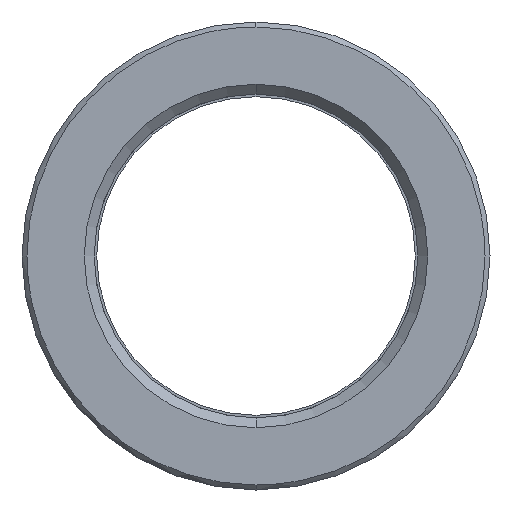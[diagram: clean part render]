
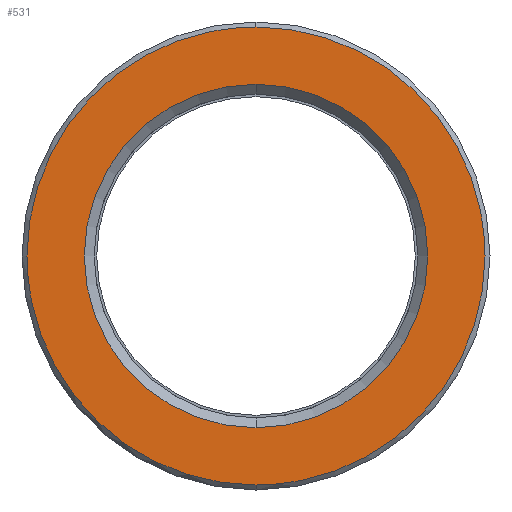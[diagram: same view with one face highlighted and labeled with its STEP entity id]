
A CAD part, left-side view. The second image highlights one B-rep face of the part: STEP entity #531.
In plain terms, the highlighted planar face has unit normal (-1, 0, 0).
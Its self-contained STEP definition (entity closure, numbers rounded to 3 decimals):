
#311=CARTESIAN_POINT('Axis2P3D Location',(0.,0.,0.)) ;
#315=CARTESIAN_POINT('Vertex',(0.,17.25,0.)) ;
#317=CARTESIAN_POINT('Vertex',(0.,0.,17.25)) ;
#320=CARTESIAN_POINT('Axis2P3D Location',(0.,0.,0.)) ;
#324=CARTESIAN_POINT('Vertex',(0.,0.,-17.25)) ;
#351=CARTESIAN_POINT('Axis2P3D Location',(0.,0.,0.)) ;
#355=CARTESIAN_POINT('Vertex',(0.,-17.25,0.)) ;
#358=CARTESIAN_POINT('Axis2P3D Location',(0.,0.,0.)) ;
#438=CARTESIAN_POINT('Axis2P3D Location',(0.,23.,0.)) ;
#444=CARTESIAN_POINT('Control Point',(0.,0.,-23.)) ;
#445=CARTESIAN_POINT('Control Point',(0.,1.232,-23.)) ;
#446=CARTESIAN_POINT('Control Point',(0.,2.465,-22.917)) ;
#447=CARTESIAN_POINT('Control Point',(0.,3.69,-22.752)) ;
#448=CARTESIAN_POINT('Control Point',(0.,6.977,-22.083)) ;
#449=CARTESIAN_POINT('Control Point',(0.,10.102,-20.826)) ;
#450=CARTESIAN_POINT('Control Point',(0.,11.977,-19.807)) ;
#451=CARTESIAN_POINT('Control Point',(0.,15.458,-17.357)) ;
#452=CARTESIAN_POINT('Control Point',(0.,18.293,-14.182)) ;
#453=CARTESIAN_POINT('Control Point',(0.,19.521,-12.437)) ;
#454=CARTESIAN_POINT('Control Point',(0.,21.386,-9.007)) ;
#455=CARTESIAN_POINT('Control Point',(0.,22.493,-5.271)) ;
#456=CARTESIAN_POINT('Control Point',(0.,22.831,-3.528)) ;
#457=CARTESIAN_POINT('Control Point',(0.,23.,-1.764)) ;
#458=CARTESIAN_POINT('Control Point',(0.,23.,0.)) ;
#459=CARTESIAN_POINT('Vertex',(0.,0.,-23.)) ;
#461=CARTESIAN_POINT('Vertex',(0.,23.,0.)) ;
#465=CARTESIAN_POINT('Control Point',(0.,-23.,0.)) ;
#466=CARTESIAN_POINT('Control Point',(0.,-23.,-2.115)) ;
#467=CARTESIAN_POINT('Control Point',(0.,-22.757,-4.229)) ;
#468=CARTESIAN_POINT('Control Point',(0.,-22.271,-6.306)) ;
#469=CARTESIAN_POINT('Control Point',(0.,-20.83,-10.312)) ;
#470=CARTESIAN_POINT('Control Point',(0.,-18.518,-13.886)) ;
#471=CARTESIAN_POINT('Control Point',(0.,-17.161,-15.532)) ;
#472=CARTESIAN_POINT('Control Point',(0.,-14.093,-18.483)) ;
#473=CARTESIAN_POINT('Control Point',(0.,-10.435,-20.661)) ;
#474=CARTESIAN_POINT('Control Point',(0.,-8.489,-21.534)) ;
#475=CARTESIAN_POINT('Control Point',(0.,-5.613,-22.443)) ;
#476=CARTESIAN_POINT('Control Point',(0.,-2.644,-22.873)) ;
#477=CARTESIAN_POINT('Control Point',(0.,-1.764,-22.958)) ;
#478=CARTESIAN_POINT('Control Point',(0.,-0.882,-23.)) ;
#479=CARTESIAN_POINT('Control Point',(0.,0.,-23.)) ;
#480=CARTESIAN_POINT('Vertex',(0.,-23.,0.)) ;
#484=CARTESIAN_POINT('Control Point',(0.,0.,23.)) ;
#485=CARTESIAN_POINT('Control Point',(0.,-1.232,23.)) ;
#486=CARTESIAN_POINT('Control Point',(0.,-2.465,22.917)) ;
#487=CARTESIAN_POINT('Control Point',(0.,-3.69,22.752)) ;
#488=CARTESIAN_POINT('Control Point',(0.,-6.977,22.083)) ;
#489=CARTESIAN_POINT('Control Point',(0.,-10.102,20.826)) ;
#490=CARTESIAN_POINT('Control Point',(0.,-11.977,19.807)) ;
#491=CARTESIAN_POINT('Control Point',(0.,-15.458,17.357)) ;
#492=CARTESIAN_POINT('Control Point',(0.,-18.293,14.182)) ;
#493=CARTESIAN_POINT('Control Point',(0.,-19.521,12.437)) ;
#494=CARTESIAN_POINT('Control Point',(0.,-21.386,9.007)) ;
#495=CARTESIAN_POINT('Control Point',(0.,-22.493,5.271)) ;
#496=CARTESIAN_POINT('Control Point',(0.,-22.831,3.528)) ;
#497=CARTESIAN_POINT('Control Point',(0.,-23.,1.764)) ;
#498=CARTESIAN_POINT('Control Point',(0.,-23.,0.)) ;
#499=CARTESIAN_POINT('Vertex',(0.,0.,23.)) ;
#503=CARTESIAN_POINT('Control Point',(0.,23.,0.)) ;
#504=CARTESIAN_POINT('Control Point',(0.,23.,2.115)) ;
#505=CARTESIAN_POINT('Control Point',(0.,22.757,4.229)) ;
#506=CARTESIAN_POINT('Control Point',(0.,22.271,6.306)) ;
#507=CARTESIAN_POINT('Control Point',(0.,20.83,10.312)) ;
#508=CARTESIAN_POINT('Control Point',(0.,18.518,13.886)) ;
#509=CARTESIAN_POINT('Control Point',(0.,17.161,15.532)) ;
#510=CARTESIAN_POINT('Control Point',(0.,14.093,18.483)) ;
#511=CARTESIAN_POINT('Control Point',(0.,10.435,20.661)) ;
#512=CARTESIAN_POINT('Control Point',(0.,8.489,21.534)) ;
#513=CARTESIAN_POINT('Control Point',(0.,5.613,22.443)) ;
#514=CARTESIAN_POINT('Control Point',(0.,2.644,22.873)) ;
#515=CARTESIAN_POINT('Control Point',(0.,1.764,22.958)) ;
#516=CARTESIAN_POINT('Control Point',(0.,0.882,23.)) ;
#517=CARTESIAN_POINT('Control Point',(0.,0.,23.)) ;
#312=DIRECTION('Axis2P3D Direction',(-1.,0.,0.)) ;
#321=DIRECTION('Axis2P3D Direction',(-1.,0.,0.)) ;
#352=DIRECTION('Axis2P3D Direction',(-1.,0.,0.)) ;
#359=DIRECTION('Axis2P3D Direction',(-1.,0.,0.)) ;
#439=DIRECTION('Axis2P3D Direction',(-1.,0.,0.)) ;
#440=DIRECTION('Axis2P3D XDirection',(0.,0.,1.)) ;
#313=AXIS2_PLACEMENT_3D('Circle Axis2P3D',#311,#312,$) ;
#322=AXIS2_PLACEMENT_3D('Circle Axis2P3D',#320,#321,$) ;
#353=AXIS2_PLACEMENT_3D('Circle Axis2P3D',#351,#352,$) ;
#360=AXIS2_PLACEMENT_3D('Circle Axis2P3D',#358,#359,$) ;
#441=AXIS2_PLACEMENT_3D('Plane Axis2P3D',#438,#439,#440) ;
#520=ORIENTED_EDGE('',*,*,#463,.F.) ;
#521=ORIENTED_EDGE('',*,*,#482,.F.) ;
#522=ORIENTED_EDGE('',*,*,#501,.F.) ;
#523=ORIENTED_EDGE('',*,*,#518,.F.) ;
#526=ORIENTED_EDGE('',*,*,#319,.T.) ;
#527=ORIENTED_EDGE('',*,*,#362,.T.) ;
#528=ORIENTED_EDGE('',*,*,#357,.T.) ;
#529=ORIENTED_EDGE('',*,*,#326,.T.) ;
#530=FACE_BOUND('',#525,.T.) ;
#531=ADVANCED_FACE('553-32X116',(#524,#530),#442,.T.) ;
#443=B_SPLINE_CURVE_WITH_KNOTS('',5,(#444,#445,#446,#447,#448,#449,#450,#451,#452,#453,#454,#455,#456,#457,#458),.UNSPECIFIED.,.F.,.U.,(6,3,3,3,6),(51.093,59.807,74.759,89.711,102.186),.UNSPECIFIED.) ;
#464=B_SPLINE_CURVE_WITH_KNOTS('',5,(#465,#466,#467,#468,#469,#470,#471,#472,#473,#474,#475,#476,#477,#478,#479),.UNSPECIFIED.,.F.,.U.,(6,3,3,3,6),(0.,14.952,29.904,44.855,51.093),.UNSPECIFIED.) ;
#483=B_SPLINE_CURVE_WITH_KNOTS('',5,(#484,#485,#486,#487,#488,#489,#490,#491,#492,#493,#494,#495,#496,#497,#498),.UNSPECIFIED.,.F.,.U.,(6,3,3,3,6),(51.093,59.807,74.759,89.711,102.186),.UNSPECIFIED.) ;
#502=B_SPLINE_CURVE_WITH_KNOTS('',5,(#503,#504,#505,#506,#507,#508,#509,#510,#511,#512,#513,#514,#515,#516,#517),.UNSPECIFIED.,.F.,.U.,(6,3,3,3,6),(0.,14.952,29.904,44.855,51.093),.UNSPECIFIED.) ;
#314=CIRCLE('generated circle',#313,17.25) ;
#323=CIRCLE('generated circle',#322,17.25) ;
#354=CIRCLE('generated circle',#353,17.25) ;
#361=CIRCLE('generated circle',#360,17.25) ;
#319=EDGE_CURVE('',#316,#318,#314,.F.) ;
#326=EDGE_CURVE('',#325,#316,#323,.F.) ;
#357=EDGE_CURVE('',#356,#325,#354,.F.) ;
#362=EDGE_CURVE('',#318,#356,#361,.F.) ;
#463=EDGE_CURVE('',#460,#462,#443,.T.) ;
#482=EDGE_CURVE('',#481,#460,#464,.T.) ;
#501=EDGE_CURVE('',#500,#481,#483,.T.) ;
#518=EDGE_CURVE('',#462,#500,#502,.T.) ;
#519=EDGE_LOOP('',(#520,#521,#522,#523)) ;
#525=EDGE_LOOP('',(#526,#527,#528,#529)) ;
#524=FACE_OUTER_BOUND('',#519,.T.) ;
#442=PLANE('Plane',#441) ;
#316=VERTEX_POINT('',#315) ;
#318=VERTEX_POINT('',#317) ;
#325=VERTEX_POINT('',#324) ;
#356=VERTEX_POINT('',#355) ;
#460=VERTEX_POINT('',#459) ;
#462=VERTEX_POINT('',#461) ;
#481=VERTEX_POINT('',#480) ;
#500=VERTEX_POINT('',#499) ;
